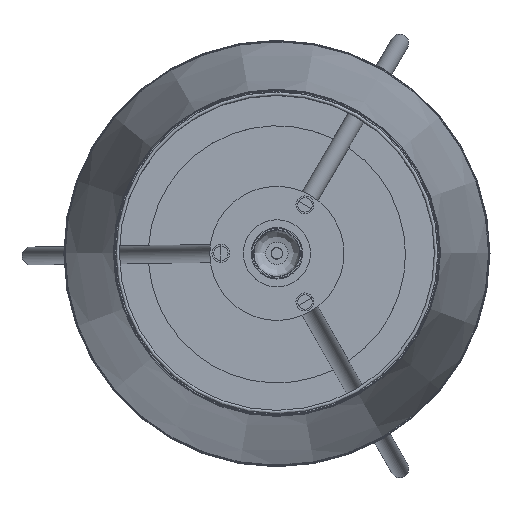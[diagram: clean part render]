
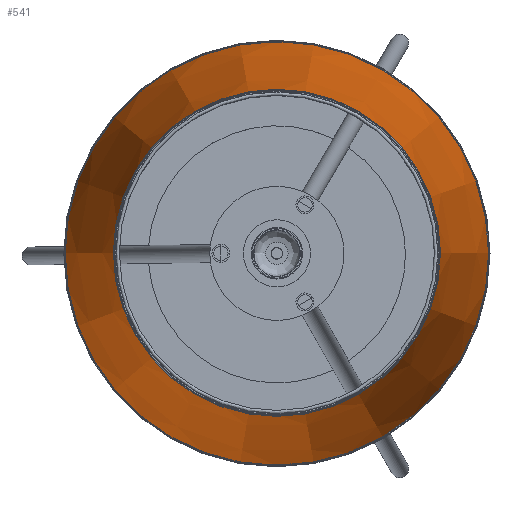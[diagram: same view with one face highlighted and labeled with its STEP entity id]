
A CAD part, top view. The second image highlights one B-rep face of the part: STEP entity #541.
In plain terms, the highlighted conical face has half-angle 7.765 degrees and reference radius 190 mm.
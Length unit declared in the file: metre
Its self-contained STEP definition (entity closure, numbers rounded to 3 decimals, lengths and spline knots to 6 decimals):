
#541 = ADVANCED_FACE( '', ( #738, #739 ), #740, .T. );
#738 = FACE_BOUND( '', #1018, .T. );
#739 = FACE_OUTER_BOUND( '', #1019, .T. );
#740 = CONICAL_SURFACE( '', #1020, 0.19, 0.136 );
#1018 = EDGE_LOOP( '', ( #1473 ) );
#1019 = EDGE_LOOP( '', ( #1474 ) );
#1020 = AXIS2_PLACEMENT_3D( '', #1475, #1476, #1477 );
#1473 = ORIENTED_EDGE( '', *, *, #1632, .T. );
#1474 = ORIENTED_EDGE( '', *, *, #1633, .F. );
#1475 = CARTESIAN_POINT( '', ( 0., 0., -0.165 ) );
#1476 = DIRECTION( '', ( 0., 0., -1. ) );
#1477 = DIRECTION( '', ( -1., 0., 0. ) );
#1632 = EDGE_CURVE( '', #1845, #1845, #1846, .T. );
#1633 = EDGE_CURVE( '', #1847, #1847, #1848, .T. );
#1845 = VERTEX_POINT( '', #2465 );
#1846 = CIRCLE( '', #2466, 0.145 );
#1847 = VERTEX_POINT( '', #2467 );
#1848 = CIRCLE( '', #2468, 0.19 );
#2465 = CARTESIAN_POINT( '', ( -0.145, 0., 0.165 ) );
#2466 = AXIS2_PLACEMENT_3D( '', #2739, #2740, #2741 );
#2467 = CARTESIAN_POINT( '', ( -0.19, 0., -0.165 ) );
#2468 = AXIS2_PLACEMENT_3D( '', #2742, #2743, #2744 );
#2739 = CARTESIAN_POINT( '', ( 0., 0., 0.165 ) );
#2740 = DIRECTION( '', ( 0., 0., -1. ) );
#2741 = DIRECTION( '', ( -1., 0., 0. ) );
#2742 = CARTESIAN_POINT( '', ( 0., 0., -0.165 ) );
#2743 = DIRECTION( '', ( 0., 0., -1. ) );
#2744 = DIRECTION( '', ( -1., 0., 0. ) );
